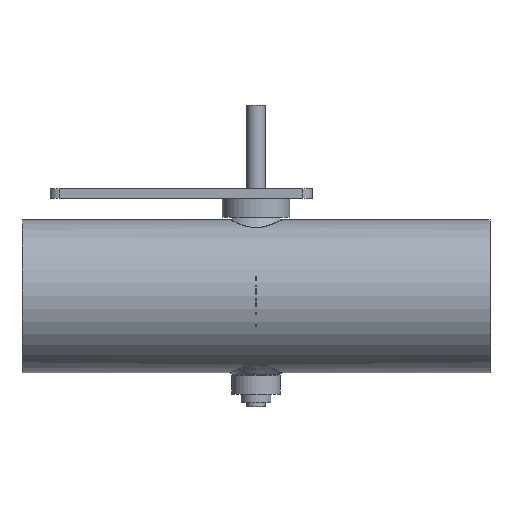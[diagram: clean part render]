
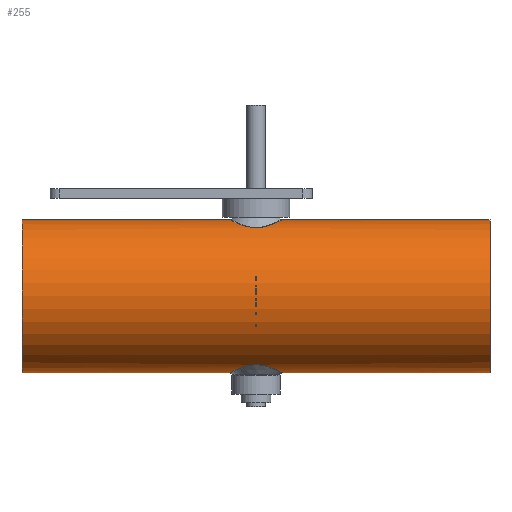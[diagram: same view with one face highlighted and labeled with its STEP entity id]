
A CAD part, top view. The second image highlights one B-rep face of the part: STEP entity #255.
In plain terms, the highlighted cylindrical face has radius 40.8 mm (diameter 81.6 mm), a full revolution.
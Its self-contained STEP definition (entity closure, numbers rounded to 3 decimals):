
#107=B_SPLINE_CURVE_WITH_KNOTS('',3,(#1457,#1458,#1459,#1460,#1461,#1462,
#1463,#1464,#1465,#1466,#1467,#1468,#1469,#1470,#1471,#1472,#1473,#1474,
#1475,#1476,#1477,#1478,#1479,#1480,#1481,#1482,#1483,#1484),.UNSPECIFIED.,
 .T.,.F.,(2,2,2,2,2,2,2,2,2,2,2,2,2,2,2,2),(-0.063,0.,0.125,
0.25,0.313,0.375,0.438,
0.5,0.563,0.625,0.75,0.813,0.875,
0.938,1.,1.125),.UNSPECIFIED.);
#108=B_SPLINE_CURVE_WITH_KNOTS('',3,(#1486,#1487,#1488,#1489,#1490,#1491,
#1492,#1493,#1494,#1495,#1496,#1497,#1498,#1499,#1500,#1501,#1502,#1503,
#1504,#1505,#1506,#1507,#1508,#1509,#1510,#1511,#1512,#1513,#1514,#1515),
 .UNSPECIFIED.,.T.,.F.,(2,2,2,2,2,2,2,2,2,2,2,2,2,2,2,2,2),(-0.063,
0.,0.062,0.125,0.188,0.25,0.375,0.438,0.5,0.563,
0.625,0.688,0.75,0.875,0.938,1.,1.063),.UNSPECIFIED.);
#210=CYLINDRICAL_SURFACE('',#1008,40.8);
#255=ADVANCED_FACE('',(#359,#360,#361,#362),#210,.T.);
#359=FACE_BOUND('',#479,.T.);
#360=FACE_BOUND('',#480,.T.);
#361=FACE_BOUND('',#481,.T.);
#362=FACE_BOUND('',#482,.T.);
#479=EDGE_LOOP('',(#655));
#480=EDGE_LOOP('',(#656));
#481=EDGE_LOOP('',(#657));
#482=EDGE_LOOP('',(#658));
#655=ORIENTED_EDGE('',*,*,#849,.T.);
#656=ORIENTED_EDGE('',*,*,#850,.T.);
#657=ORIENTED_EDGE('',*,*,#845,.T.);
#658=ORIENTED_EDGE('',*,*,#847,.T.);
#757=VERTEX_POINT('',#1448);
#759=VERTEX_POINT('',#1453);
#761=VERTEX_POINT('',#1485);
#762=VERTEX_POINT('',#1516);
#845=EDGE_CURVE('',#757,#757,#909,.T.);
#847=EDGE_CURVE('',#759,#759,#911,.T.);
#849=EDGE_CURVE('',#761,#761,#107,.T.);
#850=EDGE_CURVE('',#762,#762,#108,.T.);
#909=CIRCLE('',#1002,40.8);
#911=CIRCLE('',#1005,40.8);
#1002=AXIS2_PLACEMENT_3D('',#1447,#1214,#1215);
#1005=AXIS2_PLACEMENT_3D('',#1452,#1220,#1221);
#1008=AXIS2_PLACEMENT_3D('',#1517,#1226,#1227);
#1214=DIRECTION('',(-1.,0.,0.));
#1215=DIRECTION('',(0.,0.,1.));
#1220=DIRECTION('',(1.,0.,0.));
#1221=DIRECTION('',(0.,0.,-1.));
#1226=DIRECTION('',(1.,0.,0.));
#1227=DIRECTION('',(0.,0.,-1.));
#1447=CARTESIAN_POINT('',(125.,1.7,125.));
#1448=CARTESIAN_POINT('',(125.,1.7,165.8));
#1452=CARTESIAN_POINT('',(-125.,1.7,125.));
#1453=CARTESIAN_POINT('',(-125.,1.7,84.2));
#1457=CARTESIAN_POINT('',(-5.395,-35.522,108.233));
#1458=CARTESIAN_POINT('',(-10.314,-37.121,112.136));
#1459=CARTESIAN_POINT('',(-12.526,-38.286,115.893));
#1460=CARTESIAN_POINT('',(-14.573,-39.3,124.113));
#1461=CARTESIAN_POINT('',(-14.278,-39.137,128.606));
#1462=CARTESIAN_POINT('',(-11.972,-38.029,134.501));
#1463=CARTESIAN_POINT('',(-10.92,-37.535,136.319));
#1464=CARTESIAN_POINT('',(-8.287,-36.464,139.527));
#1465=CARTESIAN_POINT('',(-6.711,-35.88,140.922));
#1466=CARTESIAN_POINT('',(-2.997,-34.995,142.868));
#1467=CARTESIAN_POINT('',(-0.776,-34.74,143.354));
#1468=CARTESIAN_POINT('',(3.453,-35.035,142.757));
#1469=CARTESIAN_POINT('',(5.401,-35.524,141.764));
#1470=CARTESIAN_POINT('',(8.676,-36.588,139.164));
#1471=CARTESIAN_POINT('',(10.013,-37.153,137.588));
#1472=CARTESIAN_POINT('',(12.212,-38.133,134.022));
#1473=CARTESIAN_POINT('',(13.03,-38.535,132.078));
#1474=CARTESIAN_POINT('',(14.58,-39.303,125.868));
#1475=CARTESIAN_POINT('',(14.29,-39.142,121.43));
#1476=CARTESIAN_POINT('',(11.972,-38.029,115.496));
#1477=CARTESIAN_POINT('',(10.935,-37.541,113.701));
#1478=CARTESIAN_POINT('',(8.286,-36.463,110.47));
#1479=CARTESIAN_POINT('',(6.716,-35.882,109.082));
#1480=CARTESIAN_POINT('',(2.997,-34.995,107.132));
#1481=CARTESIAN_POINT('',(0.781,-34.74,106.646));
#1482=CARTESIAN_POINT('',(-3.455,-35.035,107.243));
#1483=CARTESIAN_POINT('',(-5.395,-35.522,108.233));
#1484=CARTESIAN_POINT('',(-10.314,-37.121,112.136));
#1485=CARTESIAN_POINT('',(-7.035,-36.055,109.534));
#1486=CARTESIAN_POINT('',(-8.677,39.989,110.837));
#1487=CARTESIAN_POINT('',(-5.393,38.921,108.231));
#1488=CARTESIAN_POINT('',(-3.45,38.434,107.241));
#1489=CARTESIAN_POINT('',(0.792,38.14,106.646));
#1490=CARTESIAN_POINT('',(3.004,38.396,107.134));
#1491=CARTESIAN_POINT('',(6.717,39.282,109.083));
#1492=CARTESIAN_POINT('',(8.288,39.864,110.473));
#1493=CARTESIAN_POINT('',(10.931,40.94,113.696));
#1494=CARTESIAN_POINT('',(11.98,41.432,115.513));
#1495=CARTESIAN_POINT('',(14.288,42.542,121.434));
#1496=CARTESIAN_POINT('',(14.582,42.704,125.865));
#1497=CARTESIAN_POINT('',(13.027,41.934,132.088));
#1498=CARTESIAN_POINT('',(12.211,41.533,134.023));
#1499=CARTESIAN_POINT('',(10.01,40.552,137.592));
#1500=CARTESIAN_POINT('',(8.677,39.989,139.161));
#1501=CARTESIAN_POINT('',(5.414,38.928,141.755));
#1502=CARTESIAN_POINT('',(3.469,38.437,142.752));
#1503=CARTESIAN_POINT('',(-0.771,38.14,143.355));
#1504=CARTESIAN_POINT('',(-2.988,38.393,142.871));
#1505=CARTESIAN_POINT('',(-6.705,39.278,140.927));
#1506=CARTESIAN_POINT('',(-8.278,39.86,139.536));
#1507=CARTESIAN_POINT('',(-10.923,40.936,136.316));
#1508=CARTESIAN_POINT('',(-11.974,41.429,134.5));
#1509=CARTESIAN_POINT('',(-14.288,42.542,128.573));
#1510=CARTESIAN_POINT('',(-14.582,42.704,124.14));
#1511=CARTESIAN_POINT('',(-13.03,41.935,117.919));
#1512=CARTESIAN_POINT('',(-12.213,41.533,115.98));
#1513=CARTESIAN_POINT('',(-10.013,40.553,112.411));
#1514=CARTESIAN_POINT('',(-8.677,39.989,110.837));
#1515=CARTESIAN_POINT('',(-5.393,38.921,108.231));
#1516=CARTESIAN_POINT('',(-7.035,39.455,109.534));
#1517=CARTESIAN_POINT('',(-125.,1.7,125.));
